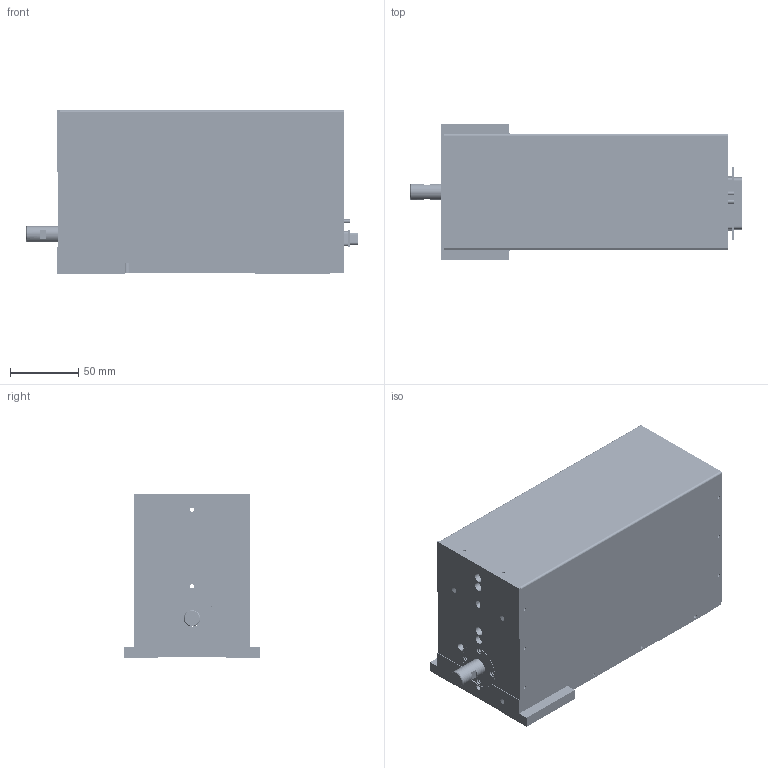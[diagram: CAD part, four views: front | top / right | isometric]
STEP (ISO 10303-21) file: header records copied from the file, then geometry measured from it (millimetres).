
FILE_DESCRIPTION((''),'2;1');
FILE_NAME('LAL300-050-8_A.stp','2005-09-02T14:01:35',(''),(''),'Mechanical Desktop 2005','Mechanical Desktop 2005',', , ');
FILE_SCHEMA(('CONFIG_CONTROL_DESIGN'));
Length unit declared in the file: millimetre
Products named in the file (3): LAL300-050-8_A; PART1; CONN25-3D
Assembly tree (2 placements, depth 2):
  LAL300-050-8_A
    PART1
    CONN25-3D
Bounding box: 243.25 x 100 x 120 mm (x, y, z)
Volume: 340809 mm3; surface area: 223419.9 mm2
Topology: 5 solids, 6 shells, 4460 faces, 9271 edges, 4904 vertices
Faces by surface type: cone 3324, bspline 645, cylinder 266, plane 225
Entity records: 123841 total; most frequent: CARTESIAN_POINT 29433, DIRECTION 21566, ORIENTED_EDGE 18538, EDGE_CURVE 9269, AXIS2_PLACEMENT_3D 8481, VERTEX_POINT 4904, EDGE_LOOP 4677, CIRCLE 4663
